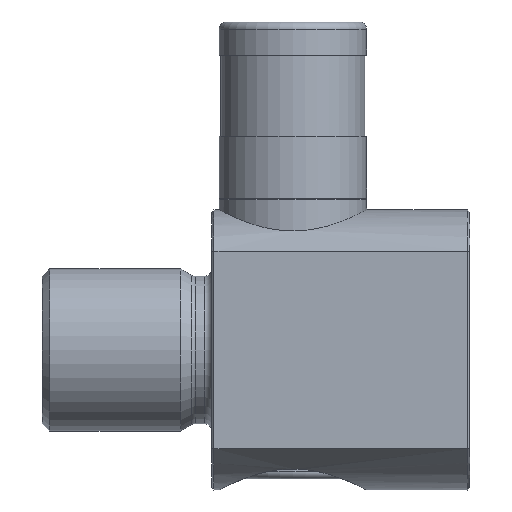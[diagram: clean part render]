
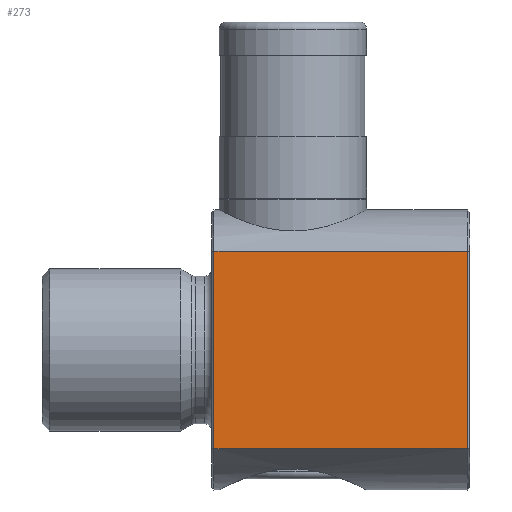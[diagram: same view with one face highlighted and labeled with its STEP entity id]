
A CAD part, left-side view. The second image highlights one B-rep face of the part: STEP entity #273.
In plain terms, the highlighted planar face has unit normal (-1, 0, 0) as drawn and (1, 0, 0) by its records, which use the part's own axes.
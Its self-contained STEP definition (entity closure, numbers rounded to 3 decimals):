
#273=ADVANCED_FACE('',(#434),#435,.F.);
#434=FACE_OUTER_BOUND('',#659,.T.);
#435=PLANE('',#660);
#659=EDGE_LOOP('',(#883,#884,#885,#886));
#660=AXIS2_PLACEMENT_3D('',#887,#888,#889);
#883=ORIENTED_EDGE('',*,*,#1232,.F.);
#884=ORIENTED_EDGE('',*,*,#1233,.T.);
#885=ORIENTED_EDGE('',*,*,#1234,.F.);
#886=ORIENTED_EDGE('',*,*,#1235,.T.);
#887=CARTESIAN_POINT('',(13.5,0.0,29.0));
#888=DIRECTION('',(-1.0,0.,0.0));
#889=DIRECTION('',(0.,1.0,0.0));
#1232=EDGE_CURVE('',#1372,#1373,#1374,.T.);
#1233=EDGE_CURVE('',#1372,#1375,#1376,.T.);
#1234=EDGE_CURVE('',#1377,#1375,#1378,.F.);
#1235=EDGE_CURVE('',#1377,#1373,#1379,.T.);
#1372=VERTEX_POINT('',#1886);
#1373=VERTEX_POINT('',#1887);
#1374=LINE('',#1888,#1889);
#1375=VERTEX_POINT('',#1890);
#1376=LINE('',#1891,#1892);
#1377=VERTEX_POINT('',#1893);
#1378=LINE('',#1894,#1895);
#1379=LINE('',#1896,#1897);
#1886=CARTESIAN_POINT('',(13.5,-13.37,-28.7));
#1887=CARTESIAN_POINT('',(13.5,-13.37,5.7));
#1888=CARTESIAN_POINT('',(13.5,-13.37,-29.0));
#1889=VECTOR('',#2235,1.0);
#1890=CARTESIAN_POINT('',(13.5,13.37,-28.7));
#1891=CARTESIAN_POINT('',(13.5,13.37,-28.7));
#1892=VECTOR('',#2236,1.0);
#1893=CARTESIAN_POINT('',(13.5,13.37,5.7));
#1894=CARTESIAN_POINT('',(13.5,13.37,-29.0));
#1895=VECTOR('',#2237,1.0);
#1896=CARTESIAN_POINT('',(13.5,-13.37,5.7));
#1897=VECTOR('',#2238,1.0);
#2235=DIRECTION('',(0.0,0.0,1.0));
#2236=DIRECTION('',(0.,1.0,0.0));
#2237=DIRECTION('',(0.0,0.0,1.0));
#2238=DIRECTION('',(0.,-1.0,0.0));
